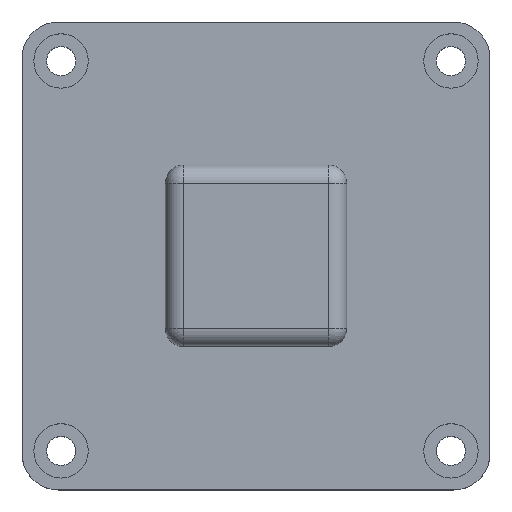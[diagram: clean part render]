
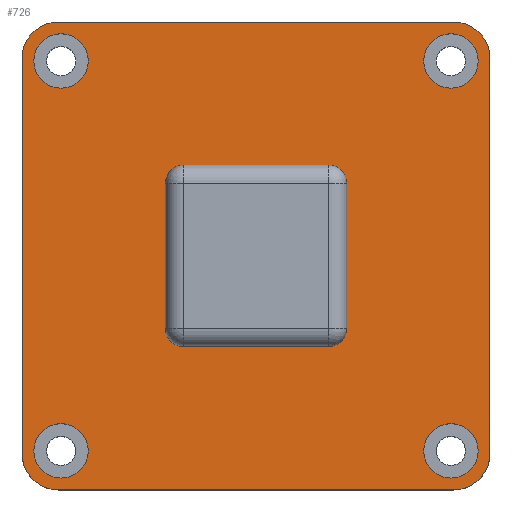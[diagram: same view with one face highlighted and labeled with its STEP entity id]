
A CAD part, top view. The second image highlights one B-rep face of the part: STEP entity #726.
In plain terms, the highlighted planar face has unit normal (0, 0, 1).
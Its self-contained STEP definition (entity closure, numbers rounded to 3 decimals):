
#29=FACE_BOUND('',#179,.T.);
#30=FACE_BOUND('',#180,.T.);
#31=FACE_BOUND('',#181,.T.);
#32=FACE_BOUND('',#182,.T.);
#33=FACE_BOUND('',#183,.T.);
#49=PLANE('',#837);
#121=FACE_OUTER_BOUND('',#178,.T.);
#178=EDGE_LOOP('',(#660,#661,#662,#663,#664,#665,#666,#667));
#179=EDGE_LOOP('',(#668,#669,#670,#671,#672,#673,#674,#675));
#180=EDGE_LOOP('',(#676));
#181=EDGE_LOOP('',(#677));
#182=EDGE_LOOP('',(#678));
#183=EDGE_LOOP('',(#679));
#197=LINE('',#1130,#246);
#200=LINE('',#1138,#249);
#206=LINE('',#1200,#255);
#208=LINE('',#1206,#257);
#221=LINE('',#1273,#270);
#227=LINE('',#1293,#276);
#230=LINE('',#1301,#279);
#232=LINE('',#1307,#281);
#246=VECTOR('',#907,10.);
#249=VECTOR('',#916,10.);
#255=VECTOR('',#946,10.);
#257=VECTOR('',#954,10.);
#270=VECTOR('',#1031,10.);
#276=VECTOR('',#1051,10.);
#279=VECTOR('',#1060,10.);
#281=VECTOR('',#1068,10.);
#296=CIRCLE('',#772,2.);
#297=CIRCLE('',#775,2.);
#302=CIRCLE('',#787,2.);
#303=CIRCLE('',#790,2.);
#306=CIRCLE('',#796,3.);
#310=CIRCLE('',#803,3.);
#314=CIRCLE('',#810,3.);
#318=CIRCLE('',#817,3.);
#320=CIRCLE('',#821,4.);
#325=CIRCLE('',#829,4.);
#326=CIRCLE('',#832,4.);
#327=CIRCLE('',#835,4.);
#343=VERTEX_POINT('',#1122);
#344=VERTEX_POINT('',#1124);
#345=VERTEX_POINT('',#1128);
#346=VERTEX_POINT('',#1132);
#347=VERTEX_POINT('',#1136);
#354=VERTEX_POINT('',#1194);
#355=VERTEX_POINT('',#1198);
#356=VERTEX_POINT('',#1202);
#359=VERTEX_POINT('',#1213);
#363=VERTEX_POINT('',#1226);
#367=VERTEX_POINT('',#1239);
#371=VERTEX_POINT('',#1252);
#373=VERTEX_POINT('',#1260);
#374=VERTEX_POINT('',#1261);
#378=VERTEX_POINT('',#1271);
#384=VERTEX_POINT('',#1287);
#385=VERTEX_POINT('',#1291);
#386=VERTEX_POINT('',#1295);
#387=VERTEX_POINT('',#1296);
#388=VERTEX_POINT('',#1303);
#414=EDGE_CURVE('',#343,#344,#296,.F.);
#417=EDGE_CURVE('',#343,#345,#197,.T.);
#419=EDGE_CURVE('',#346,#345,#297,.F.);
#421=EDGE_CURVE('',#346,#347,#200,.T.);
#432=EDGE_CURVE('',#354,#347,#302,.F.);
#434=EDGE_CURVE('',#354,#355,#206,.T.);
#436=EDGE_CURVE('',#356,#355,#303,.F.);
#437=EDGE_CURVE('',#356,#344,#208,.T.);
#440=EDGE_CURVE('',#359,#359,#306,.T.);
#446=EDGE_CURVE('',#363,#363,#310,.T.);
#452=EDGE_CURVE('',#367,#367,#314,.T.);
#458=EDGE_CURVE('',#371,#371,#318,.T.);
#462=EDGE_CURVE('',#373,#374,#320,.T.);
#468=EDGE_CURVE('',#373,#378,#221,.T.);
#475=EDGE_CURVE('',#384,#378,#325,.T.);
#478=EDGE_CURVE('',#384,#385,#227,.T.);
#479=EDGE_CURVE('',#386,#387,#326,.T.);
#482=EDGE_CURVE('',#386,#374,#230,.T.);
#483=EDGE_CURVE('',#388,#385,#327,.T.);
#485=EDGE_CURVE('',#388,#387,#232,.T.);
#660=ORIENTED_EDGE('',*,*,#462,.F.);
#661=ORIENTED_EDGE('',*,*,#468,.T.);
#662=ORIENTED_EDGE('',*,*,#475,.F.);
#663=ORIENTED_EDGE('',*,*,#478,.T.);
#664=ORIENTED_EDGE('',*,*,#483,.F.);
#665=ORIENTED_EDGE('',*,*,#485,.T.);
#666=ORIENTED_EDGE('',*,*,#479,.F.);
#667=ORIENTED_EDGE('',*,*,#482,.T.);
#668=ORIENTED_EDGE('',*,*,#421,.T.);
#669=ORIENTED_EDGE('',*,*,#432,.F.);
#670=ORIENTED_EDGE('',*,*,#434,.T.);
#671=ORIENTED_EDGE('',*,*,#436,.F.);
#672=ORIENTED_EDGE('',*,*,#437,.T.);
#673=ORIENTED_EDGE('',*,*,#414,.F.);
#674=ORIENTED_EDGE('',*,*,#417,.T.);
#675=ORIENTED_EDGE('',*,*,#419,.F.);
#676=ORIENTED_EDGE('',*,*,#440,.T.);
#677=ORIENTED_EDGE('',*,*,#446,.T.);
#678=ORIENTED_EDGE('',*,*,#452,.T.);
#679=ORIENTED_EDGE('',*,*,#458,.T.);
#726=ADVANCED_FACE('',(#121,#29,#30,#31,#32,#33),#49,.T.);
#772=AXIS2_PLACEMENT_3D('',#1125,#901,#902);
#775=AXIS2_PLACEMENT_3D('',#1134,#911,#912);
#787=AXIS2_PLACEMENT_3D('',#1196,#941,#942);
#790=AXIS2_PLACEMENT_3D('',#1204,#950,#951);
#796=AXIS2_PLACEMENT_3D('',#1214,#963,#964);
#803=AXIS2_PLACEMENT_3D('',#1227,#979,#980);
#810=AXIS2_PLACEMENT_3D('',#1240,#995,#996);
#817=AXIS2_PLACEMENT_3D('',#1253,#1011,#1012);
#821=AXIS2_PLACEMENT_3D('',#1262,#1021,#1022);
#829=AXIS2_PLACEMENT_3D('',#1288,#1045,#1046);
#832=AXIS2_PLACEMENT_3D('',#1297,#1054,#1055);
#835=AXIS2_PLACEMENT_3D('',#1304,#1063,#1064);
#837=AXIS2_PLACEMENT_3D('',#1308,#1069,#1070);
#901=DIRECTION('center_axis',(0.,0.,-1.));
#902=DIRECTION('ref_axis',(0.707,-0.707,0.));
#907=DIRECTION('',(-1.,0.,0.));
#911=DIRECTION('center_axis',(0.,0.,-1.));
#912=DIRECTION('ref_axis',(-0.707,-0.707,0.));
#916=DIRECTION('',(0.,1.,0.));
#941=DIRECTION('center_axis',(0.,0.,-1.));
#942=DIRECTION('ref_axis',(-0.707,0.707,0.));
#946=DIRECTION('',(1.,0.,0.));
#950=DIRECTION('center_axis',(0.,0.,-1.));
#951=DIRECTION('ref_axis',(0.707,0.707,0.));
#954=DIRECTION('',(0.,-1.,0.));
#963=DIRECTION('center_axis',(0.,0.,-1.));
#964=DIRECTION('ref_axis',(1.,0.,0.));
#979=DIRECTION('center_axis',(0.,0.,-1.));
#980=DIRECTION('ref_axis',(1.,0.,0.));
#995=DIRECTION('center_axis',(0.,0.,-1.));
#996=DIRECTION('ref_axis',(1.,0.,0.));
#1011=DIRECTION('center_axis',(0.,0.,-1.));
#1012=DIRECTION('ref_axis',(1.,0.,0.));
#1021=DIRECTION('center_axis',(0.,0.,-1.));
#1022=DIRECTION('ref_axis',(-0.707,0.707,0.));
#1031=DIRECTION('',(0.,-1.,0.));
#1045=DIRECTION('center_axis',(0.,0.,-1.));
#1046=DIRECTION('ref_axis',(-0.707,-0.707,0.));
#1051=DIRECTION('',(1.,0.,0.));
#1054=DIRECTION('center_axis',(0.,0.,-1.));
#1055=DIRECTION('ref_axis',(0.707,0.707,0.));
#1060=DIRECTION('',(-1.,0.,0.));
#1063=DIRECTION('center_axis',(0.,0.,-1.));
#1064=DIRECTION('ref_axis',(0.707,-0.707,0.));
#1068=DIRECTION('',(0.,1.,0.));
#1069=DIRECTION('center_axis',(0.,0.,1.));
#1070=DIRECTION('ref_axis',(1.,0.,0.));
#1122=CARTESIAN_POINT('',(8.,-10.,8.));
#1124=CARTESIAN_POINT('',(10.,-8.,8.));
#1125=CARTESIAN_POINT('Origin',(8.,-8.,8.));
#1128=CARTESIAN_POINT('',(-8.,-10.,8.));
#1130=CARTESIAN_POINT('',(-5.,-10.,8.));
#1132=CARTESIAN_POINT('',(-10.,-8.,8.));
#1134=CARTESIAN_POINT('Origin',(-8.,-8.,8.));
#1136=CARTESIAN_POINT('',(-10.,8.,8.));
#1138=CARTESIAN_POINT('',(-10.,5.,8.));
#1194=CARTESIAN_POINT('',(-8.,10.,8.));
#1196=CARTESIAN_POINT('Origin',(-8.,8.,8.));
#1198=CARTESIAN_POINT('',(8.,10.,8.));
#1200=CARTESIAN_POINT('',(5.,10.,8.));
#1202=CARTESIAN_POINT('',(10.,8.,8.));
#1204=CARTESIAN_POINT('Origin',(8.,8.,8.));
#1206=CARTESIAN_POINT('',(10.,-5.,8.));
#1213=CARTESIAN_POINT('',(18.5,-21.5,8.));
#1214=CARTESIAN_POINT('Origin',(21.5,-21.5,8.));
#1226=CARTESIAN_POINT('',(-24.5,-21.5,8.));
#1227=CARTESIAN_POINT('Origin',(-21.5,-21.5,8.));
#1239=CARTESIAN_POINT('',(18.5,21.5,8.));
#1240=CARTESIAN_POINT('Origin',(21.5,21.5,8.));
#1252=CARTESIAN_POINT('',(-24.5,21.5,8.));
#1253=CARTESIAN_POINT('Origin',(-21.5,21.5,8.));
#1260=CARTESIAN_POINT('',(-25.8,21.8,8.));
#1261=CARTESIAN_POINT('',(-21.8,25.8,8.));
#1262=CARTESIAN_POINT('Origin',(-21.8,21.8,8.));
#1271=CARTESIAN_POINT('',(-25.8,-21.8,8.));
#1273=CARTESIAN_POINT('',(-25.8,25.8,8.));
#1287=CARTESIAN_POINT('',(-21.8,-25.8,8.));
#1288=CARTESIAN_POINT('Origin',(-21.8,-21.8,8.));
#1291=CARTESIAN_POINT('',(21.8,-25.8,8.));
#1293=CARTESIAN_POINT('',(-25.8,-25.8,8.));
#1295=CARTESIAN_POINT('',(21.8,25.8,8.));
#1296=CARTESIAN_POINT('',(25.8,21.8,8.));
#1297=CARTESIAN_POINT('Origin',(21.8,21.8,8.));
#1301=CARTESIAN_POINT('',(25.8,25.8,8.));
#1303=CARTESIAN_POINT('',(25.8,-21.8,8.));
#1304=CARTESIAN_POINT('Origin',(21.8,-21.8,8.));
#1307=CARTESIAN_POINT('',(25.8,-25.8,8.));
#1308=CARTESIAN_POINT('Origin',(0.,0.,8.));
